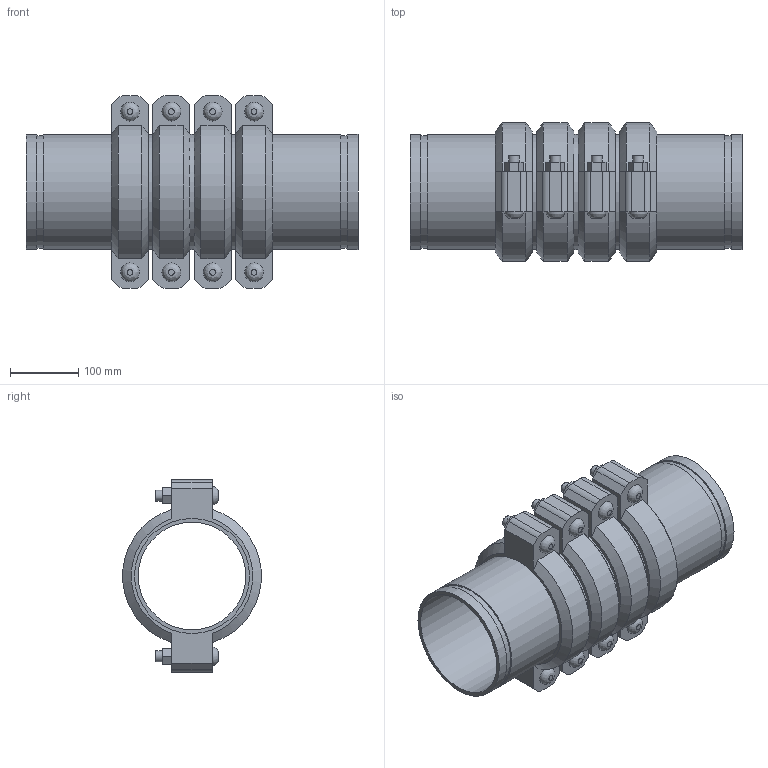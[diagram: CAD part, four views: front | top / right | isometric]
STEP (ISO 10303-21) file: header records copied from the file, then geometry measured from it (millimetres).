
FILE_DESCRIPTION(/* description */ ('VIC SS EXPANSION JOINT 4 COUPLINGS COMPRESSED STYLE 155P (OGS) (POTABLE WATER) ','CAx-IF Rec.Pracs.---Representation and Presentation of Product Manufacturing Information (PMI)---4.0---2014-10-13'),/* implementation_level */ '2;1');
FILE_NAME(/* name */ 'C:\Users\kkamble\AppData\Roaming\Autodesk\ApplicationPlugins\Victaulic.Temp\A932\Victaulic_SS_Expansion Joint_Compressed_4 Couplings_Style 155P (OGS)-Potable Water_4 Coup_Comp_6 (150).stp',/* time_stamp */ '2021-07-16T17:12:13+06:00',/* author */ ('kkamble'),/* organization */ ('Victaulic'),/* preprocessor_version */ 'ST-DEVELOPER v17.2',/* originating_system */ 'Autodesk Inventor 2019',/* authorisation */ '');
FILE_SCHEMA (('AP242_MANAGED_MODEL_BASED_3D_ENGINEERING_MIM_LF { 1 0 10303 442 1 1 4 }'));
Length unit declared in the file: inch
Products named in the file (4): 155P-06.0; Nipple-06.0; Nipple-06.0_1; 075-06.0
Assembly tree (9 placements, depth 2):
  155P-06.0
    Nipple-06.0  x2
    Nipple-06.0_1  x3
    075-06.0  x4
Bounding box: 485.39 x 202.46 x 281.18 mm (x, y, z)
Volume: 4271307.8 mm3; surface area: 985786 mm2
Topology: 9 solids, 17 shells, 272 faces, 658 edges, 464 vertices
Faces by surface type: plane 166, cylinder 82, cone 16, bspline 8
Full cylindrical faces by diameter (mm): 15.875 x16, 17.424 x8, 157.15 x5, 163.957 x10, 168.275 x19
Entity records: 2673 total; most frequent: CARTESIAN_POINT 479, DIRECTION 443, ORIENTED_EDGE 374, EDGE_CURVE 187, AXIS2_PLACEMENT_3D 176, VERTEX_POINT 134, EDGE_LOOP 101, LINE 91
